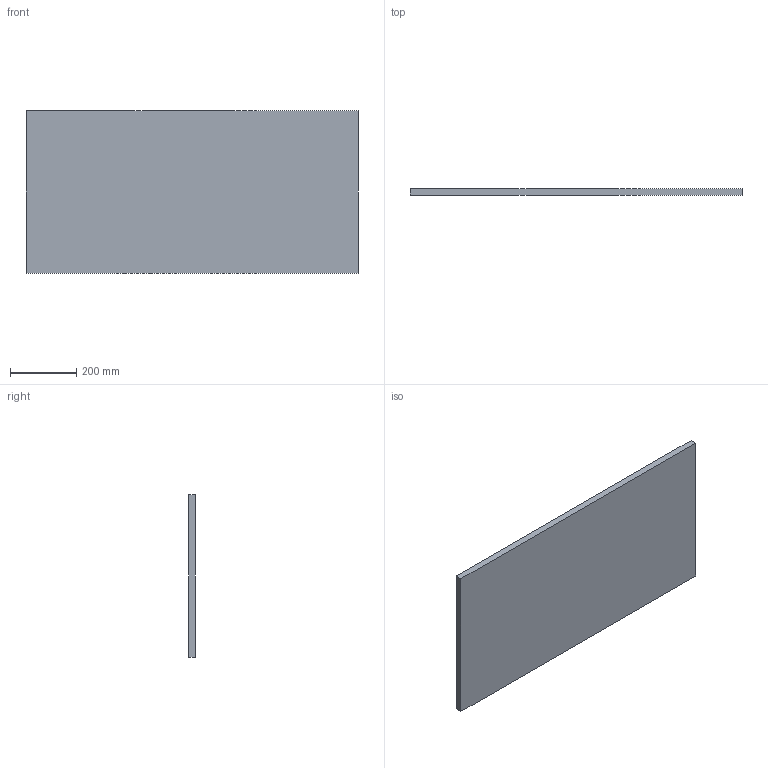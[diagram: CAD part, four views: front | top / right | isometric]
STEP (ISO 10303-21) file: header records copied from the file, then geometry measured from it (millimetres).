
FILE_DESCRIPTION (( 'STEP AP203' ), '1' );
FILE_NAME ('SMM100490000.STEP', '2019-09-02T13:36:37', ( '' ), ( '' ), 'SwSTEP 2.0', 'SolidWorks 2019', '' );
FILE_SCHEMA (( 'CONFIG_CONTROL_DESIGN' ));
Length unit declared in the file: millimetre
Products named in the file (1): SMM100490000
Bounding box: 1000 x 20 x 490 mm (x, y, z)
Volume: 9800000 mm3; surface area: 1039600 mm2
Topology: 1 solids, 1 shells, 6 faces, 12 edges, 8 vertices
Faces by surface type: plane 6
Entity records: 233 total; most frequent: CARTESIAN_POINT 27, DIRECTION 26, ORIENTED_EDGE 24, LINE 12, EDGE_CURVE 12, VECTOR 12, PERSON_AND_ORGANIZATION 8, VERTEX_POINT 8
